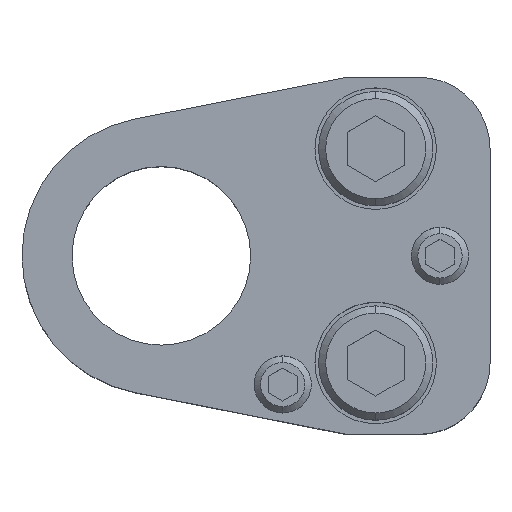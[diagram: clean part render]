
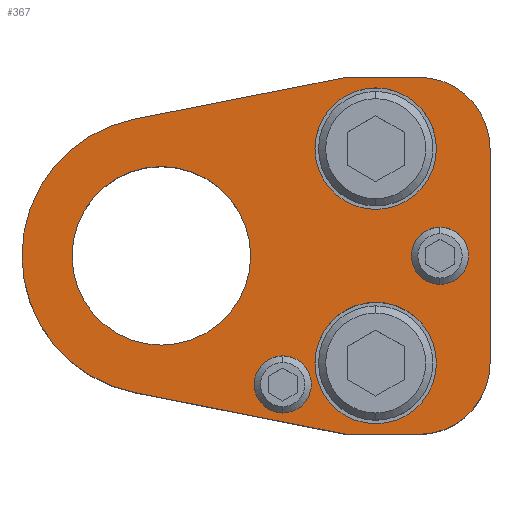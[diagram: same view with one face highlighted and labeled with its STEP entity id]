
A CAD part, top view. The second image highlights one B-rep face of the part: STEP entity #367.
In plain terms, the highlighted planar face has unit normal (0, 0, 1).
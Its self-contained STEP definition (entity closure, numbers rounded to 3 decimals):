
#149=FACE_BOUND('',#686,.T.);
#150=FACE_BOUND('',#687,.T.);
#151=FACE_BOUND('',#688,.T.);
#152=FACE_BOUND('',#689,.T.);
#153=FACE_BOUND('',#690,.T.);
#154=FACE_BOUND('',#691,.T.);
#226=CIRCLE('',#2236,10.);
#228=CIRCLE('',#2240,10.);
#231=CIRCLE('',#2245,19.5);
#244=CIRCLE('',#2267,8.5);
#247=CIRCLE('',#2271,8.5);
#248=CIRCLE('',#2274,8.5);
#251=CIRCLE('',#2278,8.5);
#252=CIRCLE('',#2281,4.);
#253=CIRCLE('',#2282,4.);
#254=CIRCLE('',#2283,4.);
#255=CIRCLE('',#2284,4.);
#256=CIRCLE('',#2285,12.5);
#257=CIRCLE('',#2286,12.5);
#367=ADVANCED_FACE('',(#149,#150,#151,#152,#153,#154),#490,.T.);
#490=PLANE('',#2287);
#686=EDGE_LOOP('',(#917,#918,#919,#920,#921,#922,#923,#924));
#687=EDGE_LOOP('',(#925,#926));
#688=EDGE_LOOP('',(#927,#928));
#689=EDGE_LOOP('',(#929,#930));
#690=EDGE_LOOP('',(#931,#932));
#691=EDGE_LOOP('',(#933,#934));
#917=ORIENTED_EDGE('',*,*,#1616,.T.);
#918=ORIENTED_EDGE('',*,*,#1635,.T.);
#919=ORIENTED_EDGE('',*,*,#1599,.T.);
#920=ORIENTED_EDGE('',*,*,#1603,.T.);
#921=ORIENTED_EDGE('',*,*,#1606,.T.);
#922=ORIENTED_EDGE('',*,*,#1609,.T.);
#923=ORIENTED_EDGE('',*,*,#1612,.T.);
#924=ORIENTED_EDGE('',*,*,#1620,.T.);
#925=ORIENTED_EDGE('',*,*,#1659,.F.);
#926=ORIENTED_EDGE('',*,*,#1660,.F.);
#927=ORIENTED_EDGE('',*,*,#1661,.F.);
#928=ORIENTED_EDGE('',*,*,#1662,.F.);
#929=ORIENTED_EDGE('',*,*,#1658,.F.);
#930=ORIENTED_EDGE('',*,*,#1654,.F.);
#931=ORIENTED_EDGE('',*,*,#1652,.F.);
#932=ORIENTED_EDGE('',*,*,#1648,.F.);
#933=ORIENTED_EDGE('',*,*,#1663,.F.);
#934=ORIENTED_EDGE('',*,*,#1664,.F.);
#1410=VERTEX_POINT('',#3175);
#1411=VERTEX_POINT('',#3177);
#1414=VERTEX_POINT('',#3184);
#1416=VERTEX_POINT('',#3190);
#1418=VERTEX_POINT('',#3196);
#1420=VERTEX_POINT('',#3202);
#1423=VERTEX_POINT('',#3210);
#1424=VERTEX_POINT('',#3212);
#1444=VERTEX_POINT('',#3275);
#1446=VERTEX_POINT('',#3278);
#1448=VERTEX_POINT('',#3288);
#1450=VERTEX_POINT('',#3291);
#1452=VERTEX_POINT('',#3301);
#1453=VERTEX_POINT('',#3302);
#1454=VERTEX_POINT('',#3305);
#1455=VERTEX_POINT('',#3306);
#1456=VERTEX_POINT('',#3309);
#1457=VERTEX_POINT('',#3310);
#1599=EDGE_CURVE('',#1411,#1410,#1895,.T.);
#1603=EDGE_CURVE('',#1410,#1414,#226,.T.);
#1606=EDGE_CURVE('',#1414,#1416,#1900,.T.);
#1609=EDGE_CURVE('',#1416,#1418,#228,.T.);
#1612=EDGE_CURVE('',#1418,#1420,#1904,.T.);
#1616=EDGE_CURVE('',#1424,#1423,#231,.T.);
#1620=EDGE_CURVE('',#1420,#1424,#1910,.T.);
#1635=EDGE_CURVE('',#1423,#1411,#1917,.T.);
#1648=EDGE_CURVE('',#1444,#1446,#244,.T.);
#1652=EDGE_CURVE('',#1446,#1444,#247,.T.);
#1654=EDGE_CURVE('',#1448,#1450,#248,.T.);
#1658=EDGE_CURVE('',#1450,#1448,#251,.T.);
#1659=EDGE_CURVE('',#1452,#1453,#252,.T.);
#1660=EDGE_CURVE('',#1453,#1452,#253,.T.);
#1661=EDGE_CURVE('',#1454,#1455,#254,.T.);
#1662=EDGE_CURVE('',#1455,#1454,#255,.T.);
#1663=EDGE_CURVE('',#1456,#1457,#256,.T.);
#1664=EDGE_CURVE('',#1457,#1456,#257,.T.);
#1895=LINE('',#3176,#2065);
#1900=LINE('',#3191,#2070);
#1904=LINE('',#3203,#2074);
#1910=LINE('',#3219,#2080);
#1917=LINE('',#3247,#2087);
#2065=VECTOR('',#2493,1.);
#2070=VECTOR('',#2506,1.);
#2074=VECTOR('',#2518,1.);
#2080=VECTOR('',#2532,1.);
#2087=VECTOR('',#2559,1.);
#2236=AXIS2_PLACEMENT_3D('',#3185,#2499,#2500);
#2240=AXIS2_PLACEMENT_3D('',#3197,#2511,#2512);
#2245=AXIS2_PLACEMENT_3D('',#3211,#2525,#2526);
#2267=AXIS2_PLACEMENT_3D('',#3277,#2587,#2588);
#2271=AXIS2_PLACEMENT_3D('',#3284,#2596,#2597);
#2274=AXIS2_PLACEMENT_3D('',#3290,#2603,#2604);
#2278=AXIS2_PLACEMENT_3D('',#3297,#2612,#2613);
#2281=AXIS2_PLACEMENT_3D('',#3300,#2618,#2619);
#2282=AXIS2_PLACEMENT_3D('',#3303,#2620,#2621);
#2283=AXIS2_PLACEMENT_3D('',#3304,#2622,#2623);
#2284=AXIS2_PLACEMENT_3D('',#3307,#2624,#2625);
#2285=AXIS2_PLACEMENT_3D('',#3308,#2626,#2627);
#2286=AXIS2_PLACEMENT_3D('',#3311,#2628,#2629);
#2287=AXIS2_PLACEMENT_3D('',#3312,#2630,#2631);
#2493=DIRECTION('',(1.,0.,0.));
#2499=DIRECTION('',(0.,0.,1.));
#2500=DIRECTION('',(-0.707,0.707,0.));
#2506=DIRECTION('',(0.,1.,0.));
#2511=DIRECTION('',(0.,0.,1.));
#2512=DIRECTION('',(-0.707,-0.707,0.));
#2518=DIRECTION('',(-1.,0.,0.));
#2525=DIRECTION('',(0.,0.,1.));
#2526=DIRECTION('',(0.,1.,0.));
#2532=DIRECTION('',(-0.981,-0.193,0.));
#2559=DIRECTION('',(0.981,-0.193,0.));
#2587=DIRECTION('',(0.,0.,1.));
#2588=DIRECTION('',(-1.,0.,0.));
#2596=DIRECTION('',(0.,0.,1.));
#2597=DIRECTION('',(1.,0.,0.));
#2603=DIRECTION('',(0.,0.,1.));
#2604=DIRECTION('',(-1.,0.,0.));
#2612=DIRECTION('',(0.,0.,1.));
#2613=DIRECTION('',(1.,0.,0.));
#2618=DIRECTION('',(0.,0.,1.));
#2619=DIRECTION('',(1.,0.,0.));
#2620=DIRECTION('',(0.,0.,1.));
#2621=DIRECTION('',(-1.,0.,0.));
#2622=DIRECTION('',(0.,0.,1.));
#2623=DIRECTION('',(1.,0.,0.));
#2624=DIRECTION('',(0.,0.,1.));
#2625=DIRECTION('',(-1.,0.,0.));
#2626=DIRECTION('',(0.,0.,1.));
#2627=DIRECTION('',(-1.,0.,0.));
#2628=DIRECTION('',(0.,0.,1.));
#2629=DIRECTION('',(1.,0.,0.));
#2630=DIRECTION('',(0.,0.,1.));
#2631=DIRECTION('',(0.981,0.193,0.));
#3175=CARTESIAN_POINT('',(36.,-25.,30.));
#3176=CARTESIAN_POINT('',(26.,-25.,30.));
#3177=CARTESIAN_POINT('',(26.,-25.,30.));
#3184=CARTESIAN_POINT('',(46.,-15.,30.));
#3185=CARTESIAN_POINT('',(36.,-15.,30.));
#3190=CARTESIAN_POINT('',(46.,15.,30.));
#3191=CARTESIAN_POINT('',(46.,-15.,30.));
#3196=CARTESIAN_POINT('',(36.,25.,30.));
#3197=CARTESIAN_POINT('',(36.,15.,30.));
#3202=CARTESIAN_POINT('',(26.,25.,30.));
#3203=CARTESIAN_POINT('',(26.,25.,30.));
#3210=CARTESIAN_POINT('',(-3.771,-19.132,30.));
#3211=CARTESIAN_POINT('',(0.,0.,30.));
#3212=CARTESIAN_POINT('',(-3.771,19.132,30.));
#3219=CARTESIAN_POINT('',(26.,25.,30.));
#3247=CARTESIAN_POINT('',(26.,-25.,30.));
#3275=CARTESIAN_POINT('',(30.,6.5,30.));
#3277=CARTESIAN_POINT('',(30.,15.,30.));
#3278=CARTESIAN_POINT('',(30.,23.5,30.));
#3284=CARTESIAN_POINT('',(30.,15.,30.));
#3288=CARTESIAN_POINT('',(30.,-23.5,30.));
#3290=CARTESIAN_POINT('',(30.,-15.,30.));
#3291=CARTESIAN_POINT('',(30.,-6.5,30.));
#3297=CARTESIAN_POINT('',(30.,-15.,30.));
#3300=CARTESIAN_POINT('',(39.,0.,30.));
#3301=CARTESIAN_POINT('',(39.,4.,30.));
#3302=CARTESIAN_POINT('',(39.,-4.,30.));
#3303=CARTESIAN_POINT('',(39.,0.,30.));
#3304=CARTESIAN_POINT('',(17.,-18.,30.));
#3305=CARTESIAN_POINT('',(17.,-14.,30.));
#3306=CARTESIAN_POINT('',(17.,-22.,30.));
#3307=CARTESIAN_POINT('',(17.,-18.,30.));
#3308=CARTESIAN_POINT('',(0.,0.,30.));
#3309=CARTESIAN_POINT('',(0.,-12.5,30.));
#3310=CARTESIAN_POINT('',(0.,12.5,30.));
#3311=CARTESIAN_POINT('',(0.,0.,30.));
#3312=CARTESIAN_POINT('',(-3.771,19.132,30.));
